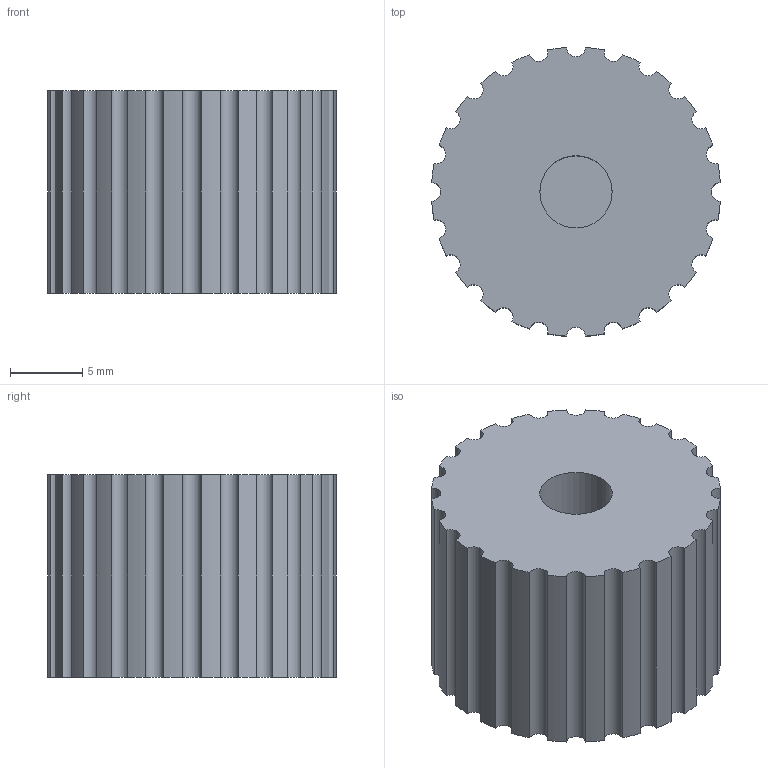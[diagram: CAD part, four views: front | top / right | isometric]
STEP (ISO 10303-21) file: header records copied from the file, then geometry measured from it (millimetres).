
FILE_DESCRIPTION(('Open CASCADE Model'),'2;1');
FILE_NAME('Open CASCADE Shape Model','2026-09-13T14:28:43',('Author'),( 'Open CASCADE'),'Open CASCADE STEP processor 7.9','Open CASCADE 7.9' ,'Unknown');
FILE_SCHEMA(('AUTOMOTIVE_DESIGN { 1 0 10303 214 1 1 1 1 }'));
Length unit declared in the file: millimetre
Products named in the file (1): Open CASCADE STEP translator 7.9 12
Bounding box: 19.96 x 19.96 x 14 mm (x, y, z)
Volume: 3959.3 mm3; surface area: 1891.5 mm2
Topology: 1 solids, 1 shells, 57 faces, 159 edges, 106 vertices
Faces by surface type: cylinder 49, plane 8
Full cylindrical faces by diameter (mm): 5 x1
Entity records: 3897 total; most frequent: CARTESIAN_POINT 811, DIRECTION 576, ORIENTED_EDGE 318, PCURVE 318, DEFINITIONAL_REPRESENTATION 318, CIRCLE 185, LINE 177, VECTOR 177
